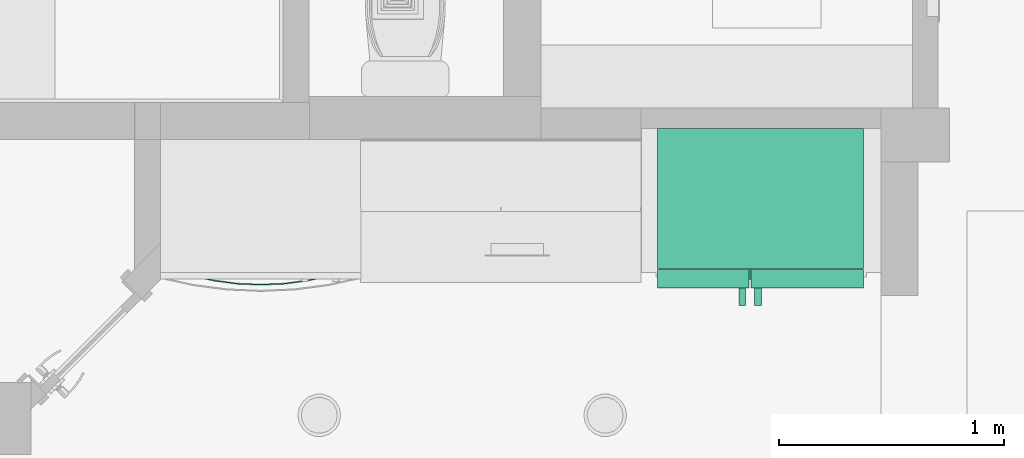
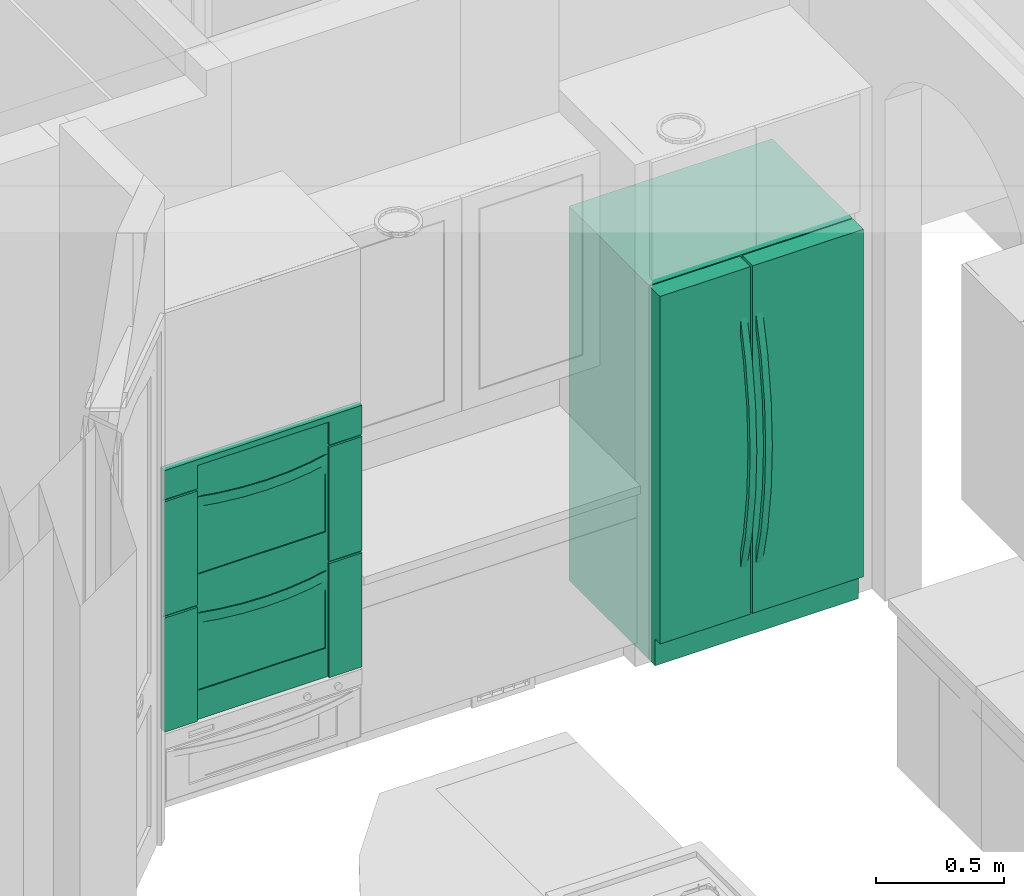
# One storey, part 53 of 77: 2 flow terminals.
"""IFC2X3 building model written with IfcOpenShell, lengths in inches."""

from ifc_helpers import new_model, entity, si_unit, converted_unit, derived_unit, money_unit, direction, frame, origin_with_axes, place, context, subcontext, project, spatial, faceted_brep, type_object, element, save


model = new_model("IFC2X3")

# Units and contexts
model_context = context("Model", 3, precision=0.000393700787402, world=origin_with_axes(), true_north=direction((0.0, 1.0)))
body_context = subcontext(model_context, "Body", "Model", "MODEL_VIEW")
ifc_project = project(units=[converted_unit("LENGTHUNIT", "INCH", entity("IfcPositiveLengthMeasure", 0.0254), si_unit("LENGTHUNIT", "METRE"), dimensions=[1, 0, 0, 0, 0, 0, 0]), converted_unit("AREAUNIT", "SQUARE_FOOT", entity("IfcPositiveLengthMeasure", 0.09290304), si_unit("AREAUNIT", "SQUARE_METRE"), dimensions=[2, 0, 0, 0, 0, 0, 0]), si_unit("PLANEANGLEUNIT", "RADIAN"), si_unit("SOLIDANGLEUNIT", "STERADIAN"), money_unit("USD"), converted_unit("TIMEUNIT", "Year", entity("IfcTimeMeasure", 31556926.0), si_unit("TIMEUNIT", "SECOND"), dimensions=[0, 0, 1, 0, 0, 0, 0]), si_unit("MASSUNIT", "GRAM", prefix="KILO"), si_unit("THERMODYNAMICTEMPERATUREUNIT", "DEGREE_CELSIUS"), si_unit("LUMINOUSINTENSITYUNIT", "LUMEN"), si_unit("ENERGYUNIT", "JOULE", prefix="MEGA"), derived_unit("THERMALCONDUCTANCEUNIT", [(si_unit("POWERUNIT", "WATT"), 1), (si_unit("LENGTHUNIT", "METRE"), -1), (si_unit("THERMODYNAMICTEMPERATUREUNIT", "KELVIN"), -1)]), derived_unit("SPECIFICHEATCAPACITYUNIT", [(si_unit("ENERGYUNIT", "JOULE"), 1), (si_unit("MASSUNIT", "GRAM", prefix="KILO"), -1), (si_unit("THERMODYNAMICTEMPERATUREUNIT", "KELVIN"), -1)]), derived_unit("MASSDENSITYUNIT", [(si_unit("MASSUNIT", "GRAM", prefix="KILO"), 1), (si_unit("VOLUMEUNIT", "CUBIC_METRE"), -1)])], contexts=[model_context])

# Site, building, storey
site_placement = place(None, origin_with_axes())
site = spatial("IfcSite", under=ifc_project, at=site_placement, Name="Site", CompositionType="ELEMENT")
building_placement = place(site_placement, origin_with_axes())
building = spatial("IfcBuilding", under=site, at=building_placement, Name="Building", CompositionType="ELEMENT")
storey_placement = place(building_placement, frame((0.0, 0.0, 127.952755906), z_axis=(0.0, 0.0, 1.0), x_axis=(1.0, 0.0, 0.0)))
storey = spatial("IfcBuildingStorey", under=building, at=storey_placement, Name="Second Floor", CompositionType="ELEMENT", Elevation=127.953)

# Flow terminals
electric_appliance_type_1 = type_object("IfcElectricApplianceType", Name="Oven Built-in 25", PredefinedType="NOTDEFINED")
flow_terminal_1_placement = place(storey_placement, frame((511.48964221, 384.399400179, 17.9133858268), z_axis=(0.0, 0.0, 1.0), x_axis=(1.0, 0.0, 0.0)))
element("IfcFlowTerminal", 1, at=flow_terminal_1_placement, inside=storey, type_object=electric_appliance_type_1, Name="OBJ-19", context=body_context, shape_type="Brep", body=[
    faceted_brep([(0.0, 0.787401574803, 0.0), (35.0393700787, 0.787401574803, 0.0), (35.0393700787, 0.0, 0.0), (0.0, 0.0, 0.0), (0.0, 0.787401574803, 49.0), (35.0393700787, 0.787401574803, 49.0), (6.23359580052, 0.787401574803, 5.44444444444), (28.8057742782, 0.787401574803, 5.44444444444), (28.8057742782, 0.787401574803, 16.3333333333), (6.23359580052, 0.787401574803, 16.3333333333), (6.23359580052, 0.787401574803, 27.2222222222), (28.8057742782, 0.787401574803, 27.2222222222), (28.8057742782, 0.787401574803, 38.1111111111), (6.23359580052, 0.787401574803, 38.1111111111), (35.0393700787, 0.0, 49.0), (0.0, 0.0, 49.0), (6.23359580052, 0.0, 5.44444444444), (6.23359580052, 0.0, 16.3333333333), (28.8057742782, 0.0, 16.3333333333), (28.8057742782, 0.0, 5.44444444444), (6.23359580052, 0.0, 27.2222222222), (6.23359580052, 0.0, 38.1111111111), (28.8057742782, 0.0, 38.1111111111), (28.8057742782, 0.0, 27.2222222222)], [[[0, 1, 2, 3]], [[0, 4, 5, 1], [6, 7, 8, 9], [10, 11, 12, 13]], [[1, 5, 14, 2]], [[3, 2, 14, 15], [16, 17, 18, 19], [20, 21, 22, 23]], [[4, 0, 3, 15]], [[5, 4, 15, 14]], [[7, 6, 16, 19]], [[8, 7, 19, 18]], [[9, 8, 18, 17]], [[6, 9, 17, 16]], [[11, 10, 20, 23]], [[12, 11, 23, 22]], [[13, 12, 22, 21]], [[10, 13, 21, 20]]]),
    faceted_brep([(6.23359580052, 0.590551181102, 5.44444444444), (28.8057742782, 0.590551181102, 5.44444444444), (28.8057742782, 0.196850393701, 5.44444444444), (6.23359580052, 0.196850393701, 5.44444444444), (6.23359580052, 0.590551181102, 16.3333333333), (28.8057742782, 0.590551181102, 16.3333333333), (28.8057742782, 0.196850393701, 16.3333333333), (6.23359580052, 0.196850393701, 16.3333333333)], [[[0, 1, 2, 3]], [[0, 4, 5, 1]], [[1, 5, 6, 2]], [[3, 2, 6, 7]], [[4, 0, 3, 7]], [[5, 4, 7, 6]]]),
    faceted_brep([(6.23359580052, 0.590551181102, 27.2222222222), (28.8057742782, 0.590551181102, 27.2222222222), (28.8057742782, 0.196850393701, 27.2222222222), (6.23359580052, 0.196850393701, 27.2222222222), (6.23359580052, 0.590551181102, 38.1111111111), (28.8057742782, 0.590551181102, 38.1111111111), (28.8057742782, 0.196850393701, 38.1111111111), (6.23359580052, 0.196850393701, 38.1111111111)], [[[0, 1, 2, 3]], [[0, 4, 5, 1]], [[1, 5, 6, 2]], [[3, 2, 6, 7]], [[4, 0, 3, 7]], [[5, 4, 7, 6]]]),
    faceted_brep([(0.0, -0.393700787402, 0.0), (5.83989501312, -0.393700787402, 0.0), (5.83989501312, -0.393700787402, 21.3840769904), (0.0, -0.393700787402, 21.3840769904), (0.0, 0.0, 0.0), (5.83989501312, 0.0, 0.0), (5.83989501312, 0.0, 21.3840769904), (0.0, 0.0, 21.3840769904)], [[[0, 1, 2, 3]], [[0, 4, 5, 1]], [[1, 5, 6, 2]], [[3, 2, 6, 7]], [[4, 0, 3, 7]], [[5, 4, 7, 6]]]),
    faceted_brep([(0.0, -0.393700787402, 21.7777777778), (5.83989501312, -0.393700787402, 21.7777777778), (5.83989501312, -0.393700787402, 43.1618547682), (0.0, -0.393700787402, 43.1618547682), (0.0, 0.0, 21.7777777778), (5.83989501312, 0.0, 21.7777777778), (5.83989501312, 0.0, 43.1618547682), (0.0, 0.0, 43.1618547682)], [[[0, 1, 2, 3]], [[0, 4, 5, 1]], [[1, 5, 6, 2]], [[3, 2, 6, 7]], [[4, 0, 3, 7]], [[5, 4, 7, 6]]]),
    faceted_brep([(29.1994750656, -0.393700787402, 0.0), (35.0393700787, -0.393700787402, 0.0), (35.0393700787, -0.393700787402, 21.3840769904), (29.1994750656, -0.393700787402, 21.3840769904), (29.1994750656, 0.0, 0.0), (35.0393700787, 0.0, 0.0), (35.0393700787, 0.0, 21.3840769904), (29.1994750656, 0.0, 21.3840769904)], [[[0, 1, 2, 3]], [[0, 4, 5, 1]], [[1, 5, 6, 2]], [[3, 2, 6, 7]], [[4, 0, 3, 7]], [[5, 4, 7, 6]]]),
    faceted_brep([(29.1994750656, -0.393700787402, 21.7777777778), (35.0393700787, -0.393700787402, 21.7777777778), (35.0393700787, -0.393700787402, 43.1618547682), (29.1994750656, -0.393700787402, 43.1618547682), (29.1994750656, 0.0, 21.7777777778), (35.0393700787, 0.0, 21.7777777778), (35.0393700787, 0.0, 43.1618547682), (29.1994750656, 0.0, 43.1618547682)], [[[0, 1, 2, 3]], [[0, 4, 5, 1]], [[1, 5, 6, 2]], [[3, 2, 6, 7]], [[4, 0, 3, 7]], [[5, 4, 7, 6]]]),
    faceted_brep([(0.0, 0.0, 43.5555555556), (5.83989501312, 0.0, 43.5555555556), (5.83989501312, -0.393700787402, 43.5555555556), (0.0, -0.393700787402, 43.5555555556), (0.0, 0.0, 49.0), (35.0393700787, 0.0, 49.0), (35.0393700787, 0.0, 43.5555555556), (29.1994750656, 0.0, 43.5555555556), (29.1994750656, 0.0, 47.9111111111), (5.83989501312, 0.0, 47.9111111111), (5.83989501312, -0.393700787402, 47.9111111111), (29.1994750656, -0.393700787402, 47.9111111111), (29.1994750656, -0.393700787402, 43.5555555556), (35.0393700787, -0.393700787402, 43.5555555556), (35.0393700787, -0.393700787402, 49.0), (0.0, -0.393700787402, 49.0)], [[[0, 1, 2, 3]], [[0, 4, 5, 6, 7, 8, 9, 1]], [[1, 9, 10, 2]], [[3, 2, 10, 11, 12, 13, 14, 15]], [[4, 0, 3, 15]], [[5, 4, 15, 14]], [[6, 5, 14, 13]], [[7, 6, 13, 12]], [[8, 7, 12, 11]], [[9, 8, 11, 10]]]),
    faceted_brep([(5.91678750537, 0.0, 18.1481481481), (9.40698802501, -0.773758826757, 18.1481481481), (9.40698802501, -0.773758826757, 19.962962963), (5.91678750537, 0.0, 19.962962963), (29.1225825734, 0.0, 18.1481481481), (25.6323820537, -0.773758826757, 18.1481481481), (21.5915281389, -1.30574733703, 18.1481481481), (17.5196850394, -1.48352784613, 18.1481481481), (13.4478419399, -1.30574733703, 18.1481481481), (6.82541523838, 0.0, 18.1481481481), (9.44117073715, -0.579899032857, 18.1481481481), (13.4649985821, -1.10964601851, 18.1481481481), (17.5196850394, -1.28667745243, 18.1481481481), (21.5743714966, -1.10964601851, 18.1481481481), (25.5981993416, -0.579899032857, 18.1481481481), (28.2139548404, 0.0, 18.1481481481), (13.4478419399, -1.30574733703, 19.962962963), (17.5196850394, -1.48352784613, 19.962962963), (21.5915281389, -1.30574733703, 19.962962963), (25.6323820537, -0.773758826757, 19.962962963), (29.1225825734, 0.0, 19.962962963), (28.2139548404, 0.0, 19.962962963), (25.5981993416, -0.579899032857, 19.962962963), (21.5743714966, -1.10964601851, 19.962962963), (17.5196850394, -1.28667745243, 19.962962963), (13.4649985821, -1.10964601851, 19.962962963), (9.44117073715, -0.579899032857, 19.962962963), (6.82541523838, 0.0, 19.962962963)], [[[0, 1, 2, 3]], [[4, 5, 6, 7, 8, 1, 0, 9, 10, 11, 12, 13, 14, 15]], [[1, 8, 16, 2]], [[3, 2, 16, 17, 18, 19, 20, 21, 22, 23, 24, 25, 26, 27]], [[0, 3, 27, 9]], [[5, 4, 20, 19]], [[6, 5, 19, 18]], [[7, 6, 18, 17]], [[8, 7, 17, 16]], [[10, 9, 27, 26]], [[11, 10, 26, 25]], [[12, 11, 25, 24]], [[13, 12, 24, 23]], [[14, 13, 23, 22]], [[15, 14, 22, 21]], [[4, 15, 21, 20]]]),
    faceted_brep([(5.91678750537, 0.0, 39.9259259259), (9.40698802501, -0.773758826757, 39.9259259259), (9.40698802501, -0.773758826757, 41.7407407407), (5.91678750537, 0.0, 41.7407407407), (29.1225825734, 0.0, 39.9259259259), (25.6323820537, -0.773758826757, 39.9259259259), (21.5915281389, -1.30574733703, 39.9259259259), (17.5196850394, -1.48352784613, 39.9259259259), (13.4478419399, -1.30574733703, 39.9259259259), (6.82541523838, 0.0, 39.9259259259), (9.44117073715, -0.579899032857, 39.9259259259), (13.4649985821, -1.10964601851, 39.9259259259), (17.5196850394, -1.28667745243, 39.9259259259), (21.5743714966, -1.10964601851, 39.9259259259), (25.5981993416, -0.579899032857, 39.9259259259), (28.2139548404, 0.0, 39.9259259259), (13.4478419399, -1.30574733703, 41.7407407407), (17.5196850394, -1.48352784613, 41.7407407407), (21.5915281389, -1.30574733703, 41.7407407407), (25.6323820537, -0.773758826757, 41.7407407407), (29.1225825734, 0.0, 41.7407407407), (28.2139548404, 0.0, 41.7407407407), (25.5981993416, -0.579899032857, 41.7407407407), (21.5743714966, -1.10964601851, 41.7407407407), (17.5196850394, -1.28667745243, 41.7407407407), (13.4649985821, -1.10964601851, 41.7407407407), (9.44117073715, -0.579899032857, 41.7407407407), (6.82541523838, 0.0, 41.7407407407)], [[[0, 1, 2, 3]], [[4, 5, 6, 7, 8, 1, 0, 9, 10, 11, 12, 13, 14, 15]], [[1, 8, 16, 2]], [[3, 2, 16, 17, 18, 19, 20, 21, 22, 23, 24, 25, 26, 27]], [[0, 3, 27, 9]], [[5, 4, 20, 19]], [[6, 5, 19, 18]], [[7, 6, 18, 17]], [[8, 7, 17, 16]], [[10, 9, 27, 26]], [[11, 10, 26, 25]], [[12, 11, 25, 24]], [[13, 12, 24, 23]], [[14, 13, 23, 22]], [[15, 14, 22, 21]], [[4, 15, 21, 20]]]),
])
electric_appliance_type_2 = type_object("IfcElectricApplianceType", Name="Refrigerator Side by Side 25", PredefinedType="NOTDEFINED")
flow_terminal_2_placement = place(storey_placement, frame((598.375799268, 382.4117787, 0.0), z_axis=(0.0, 0.0, 1.0), x_axis=(1.0, 0.0, 0.0)))
element("IfcFlowTerminal", 2, at=flow_terminal_2_placement, inside=storey, type_object=electric_appliance_type_2, Name="OBJ-18", context=body_context, shape_type="Brep", body=[
    faceted_brep([(36.0236220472, 3.44488188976, 0.0), (36.0236220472, 3.44488188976, 70.0787401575), (0.0, 3.44488188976, 70.0787401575), (0.0, 3.44488188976, 0.0), (1.96850393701, 3.44488188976, 5.21653543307), (1.96850393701, 3.44488188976, 68.1102362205), (34.0551181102, 3.44488188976, 68.1102362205), (34.0551181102, 3.44488188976, 5.21653543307), (36.0236220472, 27.9527559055, 0.0), (36.0236220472, 27.9527559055, 70.0787401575), (0.0, 27.9527559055, 70.0787401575), (0.0, 27.9527559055, 0.0), (1.96850393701, 24.7047244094, 5.21653543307), (1.96850393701, 24.7047244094, 68.1102362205), (34.0551181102, 24.7047244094, 68.1102362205), (34.0551181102, 24.7047244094, 5.21653543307)], [[[0, 1, 2, 3], [4, 5, 6, 7]], [[8, 9, 1, 0]], [[1, 9, 10, 2]], [[3, 2, 10, 11]], [[11, 8, 0, 3]], [[5, 4, 12, 13]], [[6, 5, 13, 14]], [[7, 6, 14, 15]], [[4, 7, 15, 12]], [[11, 10, 9, 8]], [[14, 13, 12, 15]]]),
    faceted_brep([(0.0, 3.24803149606, 5.0), (16.0, 3.24803149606, 5.0), (16.0, 0.0, 5.0), (0.0, 0.0, 5.0), (0.0, 3.24803149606, 70.0787401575), (16.0, 3.24803149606, 70.0787401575), (16.0, 0.0, 70.0787401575), (0.0, 0.0, 70.0787401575)], [[[0, 1, 2, 3]], [[0, 4, 5, 1]], [[1, 5, 6, 2]], [[3, 2, 6, 7]], [[4, 0, 3, 7]], [[5, 4, 7, 6]]]),
    faceted_brep([(36.0236220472, 0.0, 5.0), (36.0236220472, 3.24803149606, 5.0), (36.0236220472, 3.24803149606, 70.0787401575), (36.0236220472, 0.0, 70.0787401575), (16.3937007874, 0.0, 5.0), (16.3937007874, 3.24803149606, 5.0), (16.3937007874, 3.24803149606, 70.0787401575), (16.3937007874, 0.0, 70.0787401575)], [[[0, 1, 2, 3]], [[0, 4, 5, 1]], [[1, 5, 6, 2]], [[3, 2, 6, 7]], [[4, 0, 3, 7]], [[5, 4, 7, 6]]]),
    faceted_brep([(0.0, 1.5, 0.0), (36.0236220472, 1.5, 0.0), (36.0236220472, 1.5, 5.0), (0.0, 1.5, 5.0), (0.0, 3.24803149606, 0.0), (36.0236220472, 3.24803149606, 0.0), (36.0236220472, 3.24803149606, 5.0), (0.0, 3.24803149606, 5.0)], [[[0, 1, 2, 3]], [[0, 4, 5, 1]], [[1, 5, 6, 2]], [[3, 2, 6, 7]], [[4, 0, 3, 7]], [[5, 4, 7, 6]]]),
    faceted_brep([(14.2283464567, 0.0, 61.0059044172), (14.2283464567, -1.56490549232, 53.9470719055), (15.4094488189, -1.56490549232, 53.9470719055), (15.4094488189, 0.0, 61.0059044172), (14.2283464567, 0.0, 14.0728357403), (14.2283464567, -1.56490549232, 21.1316682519), (14.2283464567, -2.64083731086, 29.3041817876), (14.2283464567, -3.00039339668, 37.5393700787), (14.2283464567, -2.64083731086, 45.7745583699), (14.2283464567, 0.0, 57.9165701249), (14.2283464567, -0.905782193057, 53.8308506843), (14.2283464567, -1.97409282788, 45.7162257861), (14.2283464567, -2.33110205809, 37.5393700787), (14.2283464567, -1.97409282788, 29.3625143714), (14.2283464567, -0.905782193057, 21.2478894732), (14.2283464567, 0.0, 17.1621700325), (15.4094488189, -2.64083731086, 45.7745583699), (15.4094488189, -3.00039339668, 37.5393700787), (15.4094488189, -2.64083731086, 29.3041817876), (15.4094488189, -1.56490549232, 21.1316682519), (15.4094488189, 0.0, 14.0728357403), (15.4094488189, 0.0, 17.1621700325), (15.4094488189, -0.905782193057, 21.2478894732), (15.4094488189, -1.97409282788, 29.3625143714), (15.4094488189, -2.33110205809, 37.5393700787), (15.4094488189, -1.97409282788, 45.7162257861), (15.4094488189, -0.905782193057, 53.8308506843), (15.4094488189, 0.0, 57.9165701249)], [[[0, 1, 2, 3]], [[4, 5, 6, 7, 8, 1, 0, 9, 10, 11, 12, 13, 14, 15]], [[1, 8, 16, 2]], [[3, 2, 16, 17, 18, 19, 20, 21, 22, 23, 24, 25, 26, 27]], [[0, 3, 27, 9]], [[5, 4, 20, 19]], [[6, 5, 19, 18]], [[7, 6, 18, 17]], [[8, 7, 17, 16]], [[10, 9, 27, 26]], [[11, 10, 26, 25]], [[12, 11, 25, 24]], [[13, 12, 24, 23]], [[14, 13, 23, 22]], [[15, 14, 22, 21]], [[4, 15, 21, 20]]]),
    faceted_brep([(16.9842519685, 0.0, 61.0059044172), (16.9842519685, -1.56490549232, 53.9470719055), (18.1653543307, -1.56490549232, 53.9470719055), (18.1653543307, 0.0, 61.0059044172), (16.9842519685, 0.0, 14.0728357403), (16.9842519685, -1.56490549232, 21.1316682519), (16.9842519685, -2.64083731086, 29.3041817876), (16.9842519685, -3.00039339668, 37.5393700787), (16.9842519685, -2.64083731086, 45.7745583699), (16.9842519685, 0.0, 57.9165701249), (16.9842519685, -0.905782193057, 53.8308506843), (16.9842519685, -1.97409282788, 45.7162257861), (16.9842519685, -2.33110205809, 37.5393700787), (16.9842519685, -1.97409282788, 29.3625143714), (16.9842519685, -0.905782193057, 21.2478894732), (16.9842519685, 0.0, 17.1621700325), (18.1653543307, -2.64083731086, 45.7745583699), (18.1653543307, -3.00039339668, 37.5393700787), (18.1653543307, -2.64083731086, 29.3041817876), (18.1653543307, -1.56490549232, 21.1316682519), (18.1653543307, 0.0, 14.0728357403), (18.1653543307, 0.0, 17.1621700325), (18.1653543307, -0.905782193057, 21.2478894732), (18.1653543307, -1.97409282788, 29.3625143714), (18.1653543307, -2.33110205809, 37.5393700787), (18.1653543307, -1.97409282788, 45.7162257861), (18.1653543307, -0.905782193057, 53.8308506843), (18.1653543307, 0.0, 57.9165701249)], [[[0, 1, 2, 3]], [[4, 5, 6, 7, 8, 1, 0, 9, 10, 11, 12, 13, 14, 15]], [[1, 8, 16, 2]], [[3, 2, 16, 17, 18, 19, 20, 21, 22, 23, 24, 25, 26, 27]], [[0, 3, 27, 9]], [[5, 4, 20, 19]], [[6, 5, 19, 18]], [[7, 6, 18, 17]], [[8, 7, 17, 16]], [[10, 9, 27, 26]], [[11, 10, 26, 25]], [[12, 11, 25, 24]], [[13, 12, 24, 23]], [[14, 13, 23, 22]], [[15, 14, 22, 21]], [[4, 15, 21, 20]]]),
])

save(model, "model.ifc")
